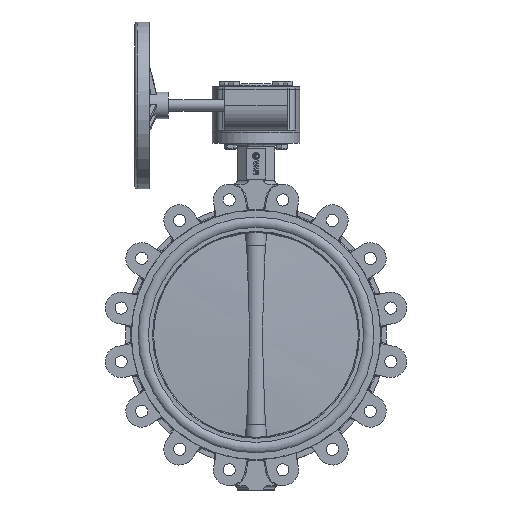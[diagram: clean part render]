
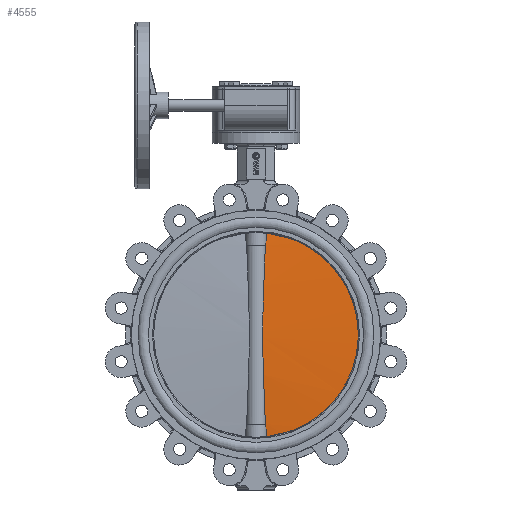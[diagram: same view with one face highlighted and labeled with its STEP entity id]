
A CAD part, left-side view. The second image highlights one B-rep face of the part: STEP entity #4555.
In plain terms, the highlighted spherical face has radius 2045.42 mm.
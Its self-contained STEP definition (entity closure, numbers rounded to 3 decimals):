
#4555=ADVANCED_FACE('',(#10458),#10460,.T.);
#10458=FACE_BOUND('',#10459,.T.);
#10459=EDGE_LOOP('',(#19556,#19557,#19558,#19559,#19560,#19561));
#10460=SPHERICAL_SURFACE('',#10461,2045.417);
#10461=AXIS2_PLACEMENT_3D('',#10462,#10463,#10464);
#10462=CARTESIAN_POINT('',(0.,-2031.917,0.));
#10463=DIRECTION('',(0.,-1.,0.));
#10464=DIRECTION('',(0.,0.,1.));
#19556=ORIENTED_EDGE('',*,*,#22498,.F.);
#19557=ORIENTED_EDGE('',*,*,#22502,.T.);
#19558=ORIENTED_EDGE('',*,*,#22485,.F.);
#19559=ORIENTED_EDGE('',*,*,#22516,.F.);
#19560=ORIENTED_EDGE('',*,*,#22517,.T.);
#19561=ORIENTED_EDGE('',*,*,#22518,.F.);
#22485=EDGE_CURVE('',#26283,#26285,#26286,.T.);
#22498=EDGE_CURVE('',#26309,#26311,#26312,.F.);
#22502=EDGE_CURVE('',#26309,#26285,#26317,.T.);
#22516=EDGE_CURVE('',#26336,#26283,#26338,.T.);
#22517=EDGE_CURVE('',#26336,#26339,#26340,.T.);
#22518=EDGE_CURVE('',#26311,#26339,#26341,.T.);
#26283=VERTEX_POINT('',#38626);
#26285=VERTEX_POINT('',#38631);
#26286=B_SPLINE_CURVE_WITH_KNOTS('',3,
(#38632,#38633,#38634,#38635,#38636,#38637,#38638,#38639),
.UNSPECIFIED.,.F.,.F.,
(4,1,1,1,1,4),
(0.,0.193,0.387,0.583,0.787,1.),
.UNSPECIFIED.);
#26309=VERTEX_POINT('',#38838);
#26311=VERTEX_POINT('',#38858);
#26312=B_SPLINE_CURVE_WITH_KNOTS('',3,
(#38859,#38860,#38861,#38862,#38863,#38864,#38865,#38866),
.UNSPECIFIED.,.F.,.F.,
(4,1,1,1,1,4),
(0.,0.193,0.387,0.583,0.787,1.),
.UNSPECIFIED.);
#26317=CIRCLE('',#38884,175.);
#26336=VERTEX_POINT('',#38992);
#26338=CIRCLE('',#38997,2039.742);
#26339=VERTEX_POINT('',#39001);
#26340=B_SPLINE_CURVE_WITH_KNOTS('',3,
(#39002,#39003,#39004,#39005,#39006,#39007,#39008,#39009,#39010,#39011,#39012,#39013,
#39014,#39015,#39016,#39017,#39018,#39019,#39020,#39021,#39022),
.UNSPECIFIED.,.F.,.F.,
(4,1,1,1,1,1,1,1,1,1,1,1,1,1,1,1,1,1,4),
(0.,0.053,0.106,0.158,0.209,0.259,
0.307,0.353,0.413,0.474,0.5,
0.537,0.604,0.685,0.774,0.854,
0.915,0.963,1.),
.UNSPECIFIED.);
#26341=CIRCLE('',#39023,2039.742);
#38626=CARTESIAN_POINT('',(-16.823,7.756,152.25));
#38631=CARTESIAN_POINT('',(-17.526,6.,174.12));
#38632=CARTESIAN_POINT('',(-16.823,7.756,152.25));
#38633=CARTESIAN_POINT('',(-16.872,7.651,153.656));
#38634=CARTESIAN_POINT('',(-16.968,7.437,156.477));
#38635=CARTESIAN_POINT('',(-17.11,7.105,160.726));
#38636=CARTESIAN_POINT('',(-17.25,6.758,165.059));
#38637=CARTESIAN_POINT('',(-17.39,6.39,169.528));
#38638=CARTESIAN_POINT('',(-17.481,6.133,172.569));
#38639=CARTESIAN_POINT('',(-17.526,6.,174.12));
#38838=CARTESIAN_POINT('',(-17.526,6.,-174.12));
#38858=CARTESIAN_POINT('',(-16.823,7.756,-152.25));
#38859=CARTESIAN_POINT('',(-16.823,7.756,-152.25));
#38860=CARTESIAN_POINT('',(-16.872,7.651,-153.656));
#38861=CARTESIAN_POINT('',(-16.968,7.437,-156.477));
#38862=CARTESIAN_POINT('',(-17.11,7.105,-160.726));
#38863=CARTESIAN_POINT('',(-17.25,6.758,-165.059));
#38864=CARTESIAN_POINT('',(-17.39,6.39,-169.528));
#38865=CARTESIAN_POINT('',(-17.481,6.133,-172.569));
#38866=CARTESIAN_POINT('',(-17.526,6.,-174.12));
#38884=AXIS2_PLACEMENT_3D('',#38885,#38886,#38887);
#38885=CARTESIAN_POINT('',(0.,6.,0.));
#38886=DIRECTION('',(0.,1.,0.));
#38887=DIRECTION('',(-0.1,0.,-0.995));
#38992=CARTESIAN_POINT('',(-15.937,7.764,152.25));
#38997=AXIS2_PLACEMENT_3D('',#38998,#38999,#39000);
#38998=CARTESIAN_POINT('',(0.,-2031.917,152.25));
#38999=DIRECTION('',(0.,0.,1.));
#39000=DIRECTION('',(-0.008,1.,0.));
#39001=CARTESIAN_POINT('',(-15.937,7.764,-152.25));
#39002=CARTESIAN_POINT('',(-15.937,7.764,152.25));
#39003=CARTESIAN_POINT('',(-15.74,8.168,146.846));
#39004=CARTESIAN_POINT('',(-15.33,8.931,136.104));
#39005=CARTESIAN_POINT('',(-14.693,9.94,120.084));
#39006=CARTESIAN_POINT('',(-14.063,10.809,104.328));
#39007=CARTESIAN_POINT('',(-13.462,11.545,88.837));
#39008=CARTESIAN_POINT('',(-12.918,12.148,73.746));
#39009=CARTESIAN_POINT('',(-12.448,12.626,59.055));
#39010=CARTESIAN_POINT('',(-12.029,13.025,43.428));
#39011=CARTESIAN_POINT('',(-11.696,13.323,26.469));
#39012=CARTESIAN_POINT('',(-11.548,13.45,11.569));
#39013=CARTESIAN_POINT('',(-11.519,13.475,-1.039));
#39014=CARTESIAN_POINT('',(-11.561,13.439,-14.24));
#39015=CARTESIAN_POINT('',(-11.791,13.241,-33.045));
#39016=CARTESIAN_POINT('',(-12.362,12.719,-57.133));
#39017=CARTESIAN_POINT('',(-13.215,11.845,-82.547));
#39018=CARTESIAN_POINT('',(-14.121,10.749,-105.83));
#39019=CARTESIAN_POINT('',(-14.893,9.642,-125.056));
#39020=CARTESIAN_POINT('',(-15.476,8.667,-139.872));
#39021=CARTESIAN_POINT('',(-15.801,8.042,-148.532));
#39022=CARTESIAN_POINT('',(-15.937,7.764,-152.25));
#39023=AXIS2_PLACEMENT_3D('',#39024,#39025,#39026);
#39024=CARTESIAN_POINT('',(0.,-2031.917,-152.25));
#39025=DIRECTION('',(0.,0.,-1.));
#39026=DIRECTION('',(-0.008,1.,0.));
